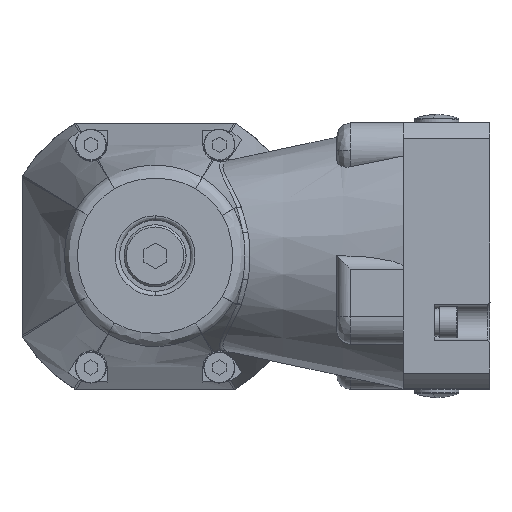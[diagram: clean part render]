
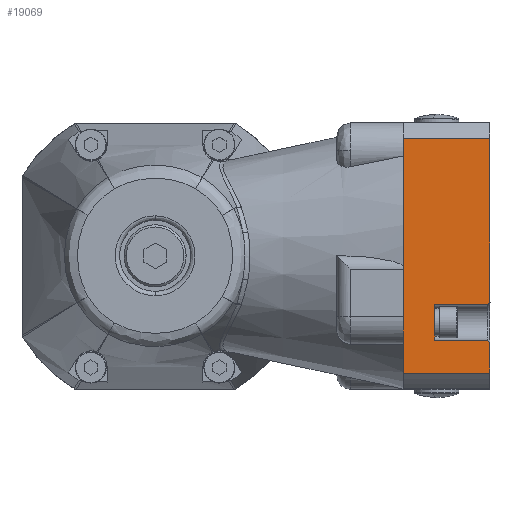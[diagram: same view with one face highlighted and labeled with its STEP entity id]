
A CAD part, top view. The second image highlights one B-rep face of the part: STEP entity #19069.
In plain terms, the highlighted planar face has unit normal (0, 0, 1).
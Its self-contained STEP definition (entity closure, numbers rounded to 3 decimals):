
#1425 = DIRECTION ( 'NONE',  ( 0., 0., -1. ) ) ;
#2445 = CARTESIAN_POINT ( 'NONE',  ( 75.5, -19.5, 100.5 ) ) ;
#3420 = VERTEX_POINT ( 'NONE', #60501 ) ;
#3575 = VECTOR ( 'NONE', #33512, 1000. ) ;
#4753 = VERTEX_POINT ( 'NONE', #37610 ) ;
#6953 = CARTESIAN_POINT ( 'NONE',  ( 75.5, 0., 100.5 ) ) ;
#6958 = VERTEX_POINT ( 'NONE', #34301 ) ;
#9134 = EDGE_CURVE ( 'NONE', #12077, #10768, #27265, .T. ) ;
#9692 = EDGE_CURVE ( 'NONE', #33592, #53327, #47895, .T. ) ;
#9694 = ORIENTED_EDGE ( 'NONE', *, *, #9134, .F. ) ;
#10726 = CARTESIAN_POINT ( 'NONE',  ( 75.5, -26.458, 100.5 ) ) ;
#10768 = VERTEX_POINT ( 'NONE', #68976 ) ;
#11581 = LINE ( 'NONE', #27949, #39395 ) ;
#11761 = CARTESIAN_POINT ( 'NONE',  ( 63., 26.458, 100.5 ) ) ;
#12077 = VERTEX_POINT ( 'NONE', #10726 ) ;
#12134 = VECTOR ( 'NONE', #68962, 1000. ) ;
#14342 = EDGE_CURVE ( 'NONE', #6958, #68763, #49916, .T. ) ;
#14458 = EDGE_CURVE ( 'NONE', #68763, #29360, #35289, .T. ) ;
#14931 = ORIENTED_EDGE ( 'NONE', *, *, #30816, .F. ) ;
#16100 = EDGE_CURVE ( 'NONE', #4753, #33592, #19916, .T. ) ;
#16273 = ORIENTED_EDGE ( 'NONE', *, *, #68051, .F. ) ;
#17309 = DIRECTION ( 'NONE',  ( -1., 0., 0. ) ) ;
#17454 = AXIS2_PLACEMENT_3D ( 'NONE', #50314, #1425, #17841 ) ;
#17841 = DIRECTION ( 'NONE',  ( 0., 1., 0. ) ) ;
#18361 = DIRECTION ( 'NONE',  ( 0., -1., 0. ) ) ;
#18881 = CARTESIAN_POINT ( 'NONE',  ( 75., -11., 100.5 ) ) ;
#19069 = ADVANCED_FACE ( 'NONE', ( #39961 ), #65658, .F. ) ;
#19572 = CARTESIAN_POINT ( 'NONE',  ( 75.5, 0., 100.5 ) ) ;
#19916 = LINE ( 'NONE', #19572, #60442 ) ;
#20078 = VECTOR ( 'NONE', #17309, 1000. ) ;
#20577 = EDGE_LOOP ( 'NONE', ( #9694, #53918, #38441, #36302, #27376, #41624, #70242, #68122, #14931, #16273 ) ) ;
#21702 = DIRECTION ( 'NONE',  ( 0., 1., 0. ) ) ;
#22442 = LINE ( 'NONE', #48511, #28409 ) ;
#24384 = LINE ( 'NONE', #61235, #47399 ) ;
#26698 = VECTOR ( 'NONE', #18361, 1000. ) ;
#27265 = LINE ( 'NONE', #61513, #20078 ) ;
#27376 = ORIENTED_EDGE ( 'NONE', *, *, #14342, .F. ) ;
#27949 = CARTESIAN_POINT ( 'NONE',  ( 75., -19., 100.5 ) ) ;
#28409 = VECTOR ( 'NONE', #49908, 1000. ) ;
#29360 = VERTEX_POINT ( 'NONE', #43227 ) ;
#30010 = EDGE_CURVE ( 'NONE', #29360, #60117, #11581, .T. ) ;
#30816 = EDGE_CURVE ( 'NONE', #3420, #4753, #24384, .T. ) ;
#33512 = DIRECTION ( 'NONE',  ( 0., -1., 0. ) ) ;
#33592 = VERTEX_POINT ( 'NONE', #48765 ) ;
#34301 = CARTESIAN_POINT ( 'NONE',  ( 63., -11., 100.5 ) ) ;
#35289 = LINE ( 'NONE', #63443, #43425 ) ;
#36302 = ORIENTED_EDGE ( 'NONE', *, *, #14458, .F. ) ;
#36511 = EDGE_CURVE ( 'NONE', #53327, #6958, #22442, .T. ) ;
#37610 = CARTESIAN_POINT ( 'NONE',  ( 75.5, 26.458, 100.5 ) ) ;
#38320 = DIRECTION ( 'NONE',  ( 0.707, -0.707, 0. ) ) ;
#38441 = ORIENTED_EDGE ( 'NONE', *, *, #30010, .F. ) ;
#39395 = VECTOR ( 'NONE', #38320, 1000. ) ;
#39961 = FACE_OUTER_BOUND ( 'NONE', #20577, .T. ) ;
#41624 = ORIENTED_EDGE ( 'NONE', *, *, #36511, .F. ) ;
#43227 = CARTESIAN_POINT ( 'NONE',  ( 75., -19., 100.5 ) ) ;
#43425 = VECTOR ( 'NONE', #46687, 1000. ) ;
#43459 = EDGE_CURVE ( 'NONE', #60117, #12077, #67241, .T. ) ;
#46687 = DIRECTION ( 'NONE',  ( 1., 0., 0. ) ) ;
#47399 = VECTOR ( 'NONE', #62914, 1000. ) ;
#47895 = LINE ( 'NONE', #57531, #12134 ) ;
#48511 = CARTESIAN_POINT ( 'NONE',  ( 75.5, -11., 100.5 ) ) ;
#48765 = CARTESIAN_POINT ( 'NONE',  ( 75.5, -10.5, 100.5 ) ) ;
#48804 = LINE ( 'NONE', #70575, #60276 ) ;
#49908 = DIRECTION ( 'NONE',  ( -1., 0., 0. ) ) ;
#49916 = LINE ( 'NONE', #11761, #3575 ) ;
#50314 = CARTESIAN_POINT ( 'NONE',  ( 75.5, 26.458, 100.5 ) ) ;
#52718 = DIRECTION ( 'NONE',  ( 0., -1., 0. ) ) ;
#53327 = VERTEX_POINT ( 'NONE', #18881 ) ;
#53918 = ORIENTED_EDGE ( 'NONE', *, *, #43459, .F. ) ;
#57531 = CARTESIAN_POINT ( 'NONE',  ( 75.5, -10.5, 100.5 ) ) ;
#60117 = VERTEX_POINT ( 'NONE', #2445 ) ;
#60276 = VECTOR ( 'NONE', #21702, 1000. ) ;
#60442 = VECTOR ( 'NONE', #52718, 1000. ) ;
#60501 = CARTESIAN_POINT ( 'NONE',  ( 56., 26.458, 100.5 ) ) ;
#61235 = CARTESIAN_POINT ( 'NONE',  ( 75.5, 26.458, 100.5 ) ) ;
#61513 = CARTESIAN_POINT ( 'NONE',  ( 75.5, -26.458, 100.5 ) ) ;
#62914 = DIRECTION ( 'NONE',  ( 1., 0., 0. ) ) ;
#63443 = CARTESIAN_POINT ( 'NONE',  ( 75.5, -19., 100.5 ) ) ;
#64178 = CARTESIAN_POINT ( 'NONE',  ( 63., -19., 100.5 ) ) ;
#65658 = PLANE ( 'NONE',  #17454 ) ;
#67241 = LINE ( 'NONE', #6953, #26698 ) ;
#68051 = EDGE_CURVE ( 'NONE', #10768, #3420, #48804, .T. ) ;
#68122 = ORIENTED_EDGE ( 'NONE', *, *, #16100, .F. ) ;
#68763 = VERTEX_POINT ( 'NONE', #64178 ) ;
#68962 = DIRECTION ( 'NONE',  ( -0.707, -0.707, 0. ) ) ;
#68976 = CARTESIAN_POINT ( 'NONE',  ( 56., -26.458, 100.5 ) ) ;
#70242 = ORIENTED_EDGE ( 'NONE', *, *, #9692, .F. ) ;
#70575 = CARTESIAN_POINT ( 'NONE',  ( 56., 26.458, 100.5 ) ) ;
